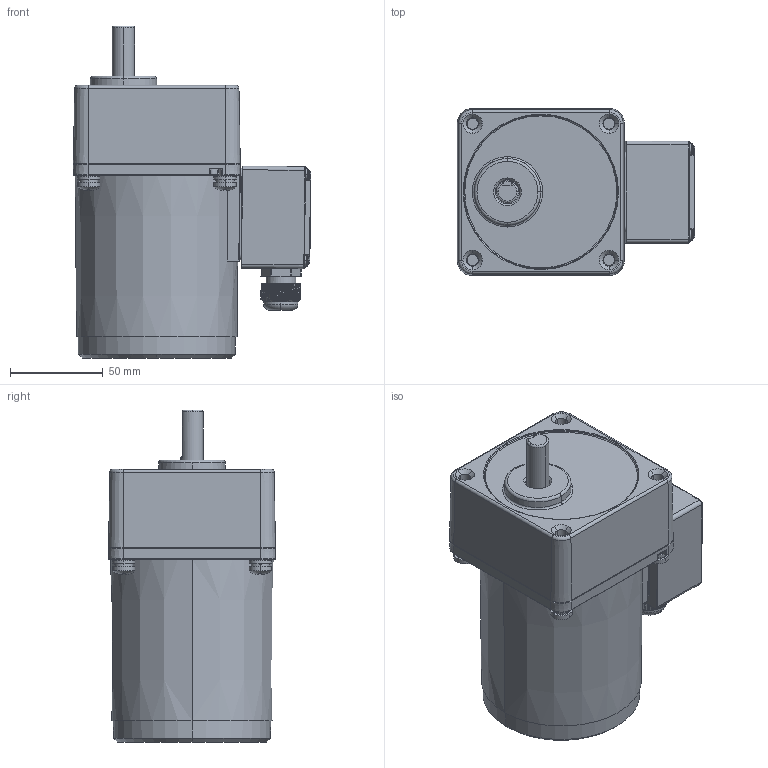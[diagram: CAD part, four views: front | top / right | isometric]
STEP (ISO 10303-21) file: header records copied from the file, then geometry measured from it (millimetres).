
FILE_DESCRIPTION (( 'STEP AP203' ), '1' );
FILE_NAME ('5IK40GN-CT(5GN3K-18K).STEP', '2023-08-08T05:22:50', ( 'Windows User' ), ( 'P R C' ), 'SwSTEP 2.0', 'SolidWorks 2019', '' );
FILE_SCHEMA (( 'CONFIG_CONTROL_DESIGN' ));
Length unit declared in the file: millimetre
Products named in the file (14): ^__5IK40GN-CT(5GN3K-18K)(2)_5IK40GN-CT(5GN3K-18K); 葩璃 (3) ^____5IK40GN-CT(5GN3K-18K)(2)_5IK40GN-CT(5GN3K-18K); ^_5IK40GN-CT(5GN3K-18K)(2)_5IK40GN-CT(5GN3K-18K); 5GN3K-18K^5IK40GN-CT(5GN3K-18K)(2)_5IK40GN-CT(5GN3K-18K); 5IK40GN-CT(5GN3K-18K); ^____5IK40GN-CT(5GN3K-18K)(2)_5IK40GN-CT(5GN3K-18K); 葩璃 (2) ^____5IK40GN-CT(5GN3K-18K)(2)_5IK40GN-CT(5GN3K-18K); ^5IK40GN-CT(5GN3K-18K)(2)_5IK40GN-CT(5GN3K-18K); 葩璃 (5) ^____5IK40GN-CT(5GN3K-18K)(2)_5IK40GN-CT(5GN3K-18K); 葩璃 (4) ^____5IK40GN-CT(5GN3K-18K)(2)_5IK40GN-CT(5GN3K-18K); 葩璃 (6) ^____5IK40GN-CT(5GN3K-18K)(2)_5IK40GN-CT(5GN3K-18K); ^___5IK40GN-CT(5GN3K-18K)(2)_5IK40GN-CT(5GN3K-18K); 5IK40GN-CT(5GN3K-18K)(2)^5IK40GN-CT(5GN3K-18K)
Assembly tree (13 placements, depth 7):
  5IK40GN-CT(5GN3K-18K)
    5IK40GN-CT(5GN3K-18K)(2)^5IK40GN-CT(5GN3K-18K)
      ^5IK40GN-CT(5GN3K-18K)(2)_5IK40GN-CT(5GN3K-18K)
        ^_5IK40GN-CT(5GN3K-18K)(2)_5IK40GN-CT(5GN3K-18K)
          ^__5IK40GN-CT(5GN3K-18K)(2)_5IK40GN-CT(5GN3K-18K)
            ^___5IK40GN-CT(5GN3K-18K)(2)_5IK40GN-CT(5GN3K-18K)
              ^____5IK40GN-CT(5GN3K-18K)(2)_5IK40GN-CT(5GN3K-18K)
              葩璃 (2) ^____5IK40GN-CT(5GN3K-18K)(2)_5IK40GN-CT(5GN3K-18K)
              葩璃 (3) ^____5IK40GN-CT(5GN3K-18K)(2)_5IK40GN-CT(5GN3K-18K)
              葩璃 (4) ^____5IK40GN-CT(5GN3K-18K)(2)_5IK40GN-CT(5GN3K-18K)
              葩璃 (5) ^____5IK40GN-CT(5GN3K-18K)(2)_5IK40GN-CT(5GN3K-18K)
              葩璃 (6) ^____5IK40GN-CT(5GN3K-18K)(2)_5IK40GN-CT(5GN3K-18K)
          ^__5IK40GN-CT(5GN3K-18K)(2)_5IK40GN-CT(5GN3K-18K)
      5GN3K-18K^5IK40GN-CT(5GN3K-18K)(2)_5IK40GN-CT(5GN3K-18K)
Bounding box: 127.95 x 90 x 179 mm (x, y, z)
Volume: 1094862.9 mm3; surface area: 117950.2 mm2
Topology: 38 solids, 38 shells, 1691 faces, 4314 edges, 2707 vertices
Faces by surface type: cylinder 614, plane 473, cone 365, torus 101, sphere 92, bspline 46
Entity records: 58259 total; most frequent: CARTESIAN_POINT 15459, DIRECTION 9260, ORIENTED_EDGE 8528, EDGE_CURVE 4264, AXIS2_PLACEMENT_3D 3840, VERTEX_POINT 2703, CIRCLE 2174, EDGE_LOOP 1779
